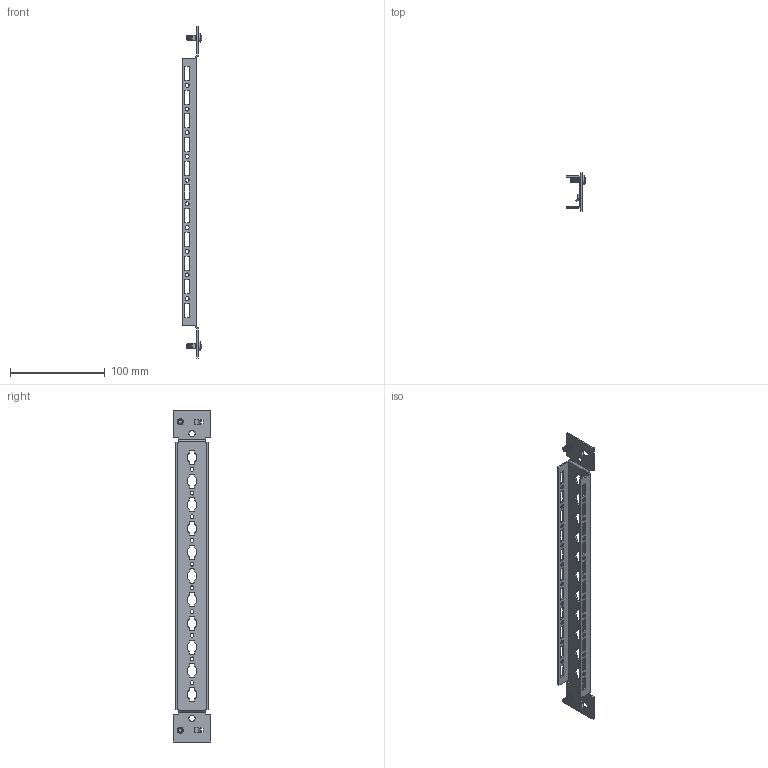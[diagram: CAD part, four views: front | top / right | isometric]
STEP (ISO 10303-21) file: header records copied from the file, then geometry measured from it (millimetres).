
FILE_DESCRIPTION(('Open CASCADE Model'),'2;1');
FILE_NAME('Open CASCADE Shape Model','2025-02-21T13:29:29',('Author'),( 'Open CASCADE'),'Open CASCADE STEP processor 7.8','Open CASCADE 7.8' ,'Unknown');
FILE_SCHEMA(('AUTOMOTIVE_DESIGN { 1 0 10303 214 1 1 1 1 }'));
Length unit declared in the file: millimetre
Products named in the file (3): Compound1; Solid1; Solid2
Assembly tree (3 placements, depth 2):
  Compound1
    Solid1
    Solid2  x2
Bounding box: 20.36 x 40 x 350.04 mm (x, y, z)
Volume: 25767.8 mm3; surface area: 38421.4 mm2
Topology: 3 solids, 3 shells, 518 faces, 1432 edges, 922 vertices
Faces by surface type: plane 276, cylinder 178, cone 56, torus 4, sphere 2, bspline 2
Full cylindrical faces by diameter (mm): 4.2 x30, 5 x28, 6.5 x4, 9.5 x2
Entity records: 15668 total; most frequent: CARTESIAN_POINT 3101, ORIENTED_EDGE 2646, DIRECTION 2530, EDGE_CURVE 1323, LINE 872, VECTOR 872, VERTEX_POINT 866, AXIS2_PLACEMENT_3D 829
